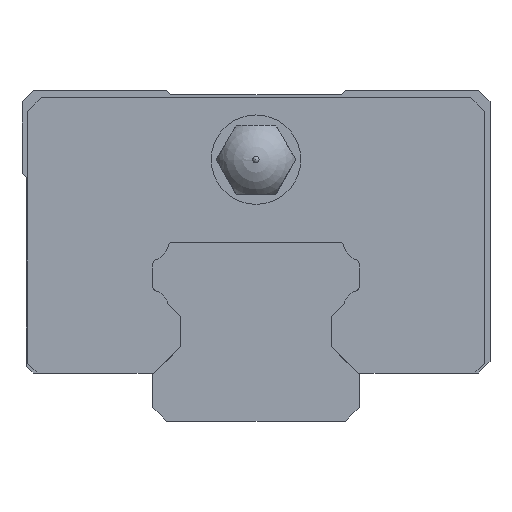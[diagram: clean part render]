
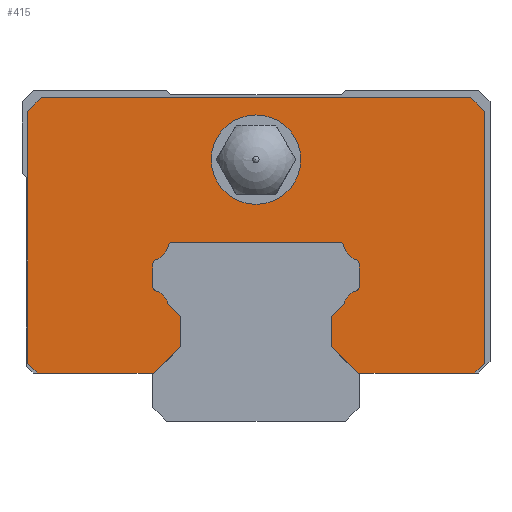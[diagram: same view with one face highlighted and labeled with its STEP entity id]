
A CAD part, front view. The second image highlights one B-rep face of the part: STEP entity #415.
In plain terms, the highlighted planar face has unit normal (0, -1, 0).
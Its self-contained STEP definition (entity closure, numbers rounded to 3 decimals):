
#164=FACE_BOUND('',#725,.T.);
#165=FACE_BOUND('',#726,.T.);
#287=CIRCLE('',#2353,0.3);
#289=CIRCLE('',#2356,1.4);
#291=CIRCLE('',#2363,1.4);
#293=CIRCLE('',#2366,0.3);
#295=CIRCLE('',#2370,0.3);
#297=CIRCLE('',#2373,1.4);
#299=CIRCLE('',#2376,0.3);
#301=CIRCLE('',#2380,0.3);
#303=CIRCLE('',#2383,1.4);
#305=CIRCLE('',#2386,0.3);
#309=CIRCLE('',#2400,3.25);
#415=ADVANCED_FACE('',(#164,#165),#514,.T.);
#514=PLANE('',#2402);
#725=EDGE_LOOP('',(#1184,#1185,#1186,#1187,#1188,#1189,#1190,#1191,#1192,#1193,#1194,#1195,#1196,#1197,#1198,#1199,#1200,#1201,#1202,#1203,#1204,#1205,#1206,#1207,#1208,#1209,#1210,#1211));
#726=EDGE_LOOP('',(#1212));
#1184=ORIENTED_EDGE('',*,*,#1791,.F.);
#1185=ORIENTED_EDGE('',*,*,#1753,.F.);
#1186=ORIENTED_EDGE('',*,*,#1750,.F.);
#1187=ORIENTED_EDGE('',*,*,#1747,.F.);
#1188=ORIENTED_EDGE('',*,*,#1744,.F.);
#1189=ORIENTED_EDGE('',*,*,#1741,.F.);
#1190=ORIENTED_EDGE('',*,*,#1789,.F.);
#1191=ORIENTED_EDGE('',*,*,#1787,.F.);
#1192=ORIENTED_EDGE('',*,*,#1784,.F.);
#1193=ORIENTED_EDGE('',*,*,#1781,.F.);
#1194=ORIENTED_EDGE('',*,*,#1778,.F.);
#1195=ORIENTED_EDGE('',*,*,#1775,.F.);
#1196=ORIENTED_EDGE('',*,*,#1772,.F.);
#1197=ORIENTED_EDGE('',*,*,#1769,.F.);
#1198=ORIENTED_EDGE('',*,*,#1766,.F.);
#1199=ORIENTED_EDGE('',*,*,#1763,.F.);
#1200=ORIENTED_EDGE('',*,*,#1760,.F.);
#1201=ORIENTED_EDGE('',*,*,#1757,.F.);
#1202=ORIENTED_EDGE('',*,*,#1793,.F.);
#1203=ORIENTED_EDGE('',*,*,#1732,.T.);
#1204=ORIENTED_EDGE('',*,*,#1795,.T.);
#1205=ORIENTED_EDGE('',*,*,#1798,.T.);
#1206=ORIENTED_EDGE('',*,*,#1800,.T.);
#1207=ORIENTED_EDGE('',*,*,#1802,.T.);
#1208=ORIENTED_EDGE('',*,*,#1804,.T.);
#1209=ORIENTED_EDGE('',*,*,#1807,.T.);
#1210=ORIENTED_EDGE('',*,*,#1808,.T.);
#1211=ORIENTED_EDGE('',*,*,#1713,.T.);
#1212=ORIENTED_EDGE('',*,*,#1810,.F.);
#1478=VERTEX_POINT('',#3365);
#1479=VERTEX_POINT('',#3367);
#1484=VERTEX_POINT('',#3404);
#1485=VERTEX_POINT('',#3406);
#1489=VERTEX_POINT('',#3420);
#1491=VERTEX_POINT('',#3424);
#1493=VERTEX_POINT('',#3429);
#1495=VERTEX_POINT('',#3435);
#1497=VERTEX_POINT('',#3441);
#1499=VERTEX_POINT('',#3447);
#1501=VERTEX_POINT('',#3453);
#1503=VERTEX_POINT('',#3457);
#1505=VERTEX_POINT('',#3462);
#1507=VERTEX_POINT('',#3468);
#1509=VERTEX_POINT('',#3474);
#1511=VERTEX_POINT('',#3480);
#1513=VERTEX_POINT('',#3486);
#1515=VERTEX_POINT('',#3492);
#1517=VERTEX_POINT('',#3498);
#1519=VERTEX_POINT('',#3504);
#1521=VERTEX_POINT('',#3510);
#1523=VERTEX_POINT('',#3516);
#1524=VERTEX_POINT('',#3530);
#1526=VERTEX_POINT('',#3536);
#1527=VERTEX_POINT('',#3540);
#1528=VERTEX_POINT('',#3544);
#1529=VERTEX_POINT('',#3548);
#1531=VERTEX_POINT('',#3554);
#1533=VERTEX_POINT('',#3562);
#1713=EDGE_CURVE('',#1479,#1478,#1971,.T.);
#1732=EDGE_CURVE('',#1485,#1484,#1985,.T.);
#1741=EDGE_CURVE('',#1491,#1489,#1994,.T.);
#1744=EDGE_CURVE('',#1489,#1493,#287,.T.);
#1747=EDGE_CURVE('',#1493,#1495,#289,.T.);
#1750=EDGE_CURVE('',#1495,#1497,#1999,.T.);
#1753=EDGE_CURVE('',#1497,#1499,#2002,.T.);
#1757=EDGE_CURVE('',#1503,#1501,#2006,.T.);
#1760=EDGE_CURVE('',#1501,#1505,#2009,.T.);
#1763=EDGE_CURVE('',#1505,#1507,#291,.T.);
#1766=EDGE_CURVE('',#1507,#1509,#293,.T.);
#1769=EDGE_CURVE('',#1509,#1511,#2014,.T.);
#1772=EDGE_CURVE('',#1511,#1513,#295,.T.);
#1775=EDGE_CURVE('',#1513,#1515,#297,.T.);
#1778=EDGE_CURVE('',#1515,#1517,#299,.T.);
#1781=EDGE_CURVE('',#1517,#1519,#2020,.T.);
#1784=EDGE_CURVE('',#1519,#1521,#301,.T.);
#1787=EDGE_CURVE('',#1521,#1523,#303,.T.);
#1789=EDGE_CURVE('',#1523,#1491,#305,.T.);
#1791=EDGE_CURVE('',#1499,#1478,#2024,.T.);
#1793=EDGE_CURVE('',#1485,#1503,#2026,.T.);
#1795=EDGE_CURVE('',#1484,#1524,#2028,.T.);
#1798=EDGE_CURVE('',#1524,#1526,#2030,.T.);
#1800=EDGE_CURVE('',#1526,#1527,#2032,.T.);
#1802=EDGE_CURVE('',#1527,#1528,#2034,.T.);
#1804=EDGE_CURVE('',#1528,#1529,#2036,.T.);
#1807=EDGE_CURVE('',#1529,#1531,#2038,.T.);
#1808=EDGE_CURVE('',#1531,#1479,#2039,.T.);
#1810=EDGE_CURVE('',#1533,#1533,#309,.T.);
#1971=LINE('',#3366,#2166);
#1985=LINE('',#3405,#2180);
#1994=LINE('',#3425,#2189);
#1999=LINE('',#3443,#2194);
#2002=LINE('',#3449,#2197);
#2006=LINE('',#3458,#2201);
#2009=LINE('',#3464,#2204);
#2014=LINE('',#3482,#2209);
#2020=LINE('',#3506,#2215);
#2024=LINE('',#3524,#2219);
#2026=LINE('',#3527,#2221);
#2028=LINE('',#3531,#2223);
#2030=LINE('',#3537,#2225);
#2032=LINE('',#3541,#2227);
#2034=LINE('',#3545,#2229);
#2036=LINE('',#3549,#2231);
#2038=LINE('',#3555,#2233);
#2039=LINE('',#3557,#2234);
#2166=VECTOR('',#2712,1.);
#2180=VECTOR('',#2756,1.);
#2189=VECTOR('',#2773,1.);
#2194=VECTOR('',#2792,1.);
#2197=VECTOR('',#2797,1.);
#2201=VECTOR('',#2803,1.);
#2204=VECTOR('',#2808,1.);
#2209=VECTOR('',#2827,1.);
#2215=VECTOR('',#2853,1.);
#2219=VECTOR('',#2877,1.);
#2221=VECTOR('',#2881,1.);
#2223=VECTOR('',#2885,1.);
#2225=VECTOR('',#2891,1.);
#2227=VECTOR('',#2895,1.);
#2229=VECTOR('',#2899,1.);
#2231=VECTOR('',#2903,1.);
#2233=VECTOR('',#2909,1.);
#2234=VECTOR('',#2912,1.);
#2353=AXIS2_PLACEMENT_3D('',#3431,#2779,#2780);
#2356=AXIS2_PLACEMENT_3D('',#3437,#2786,#2787);
#2363=AXIS2_PLACEMENT_3D('',#3470,#2814,#2815);
#2366=AXIS2_PLACEMENT_3D('',#3476,#2821,#2822);
#2370=AXIS2_PLACEMENT_3D('',#3488,#2833,#2834);
#2373=AXIS2_PLACEMENT_3D('',#3494,#2840,#2841);
#2376=AXIS2_PLACEMENT_3D('',#3500,#2847,#2848);
#2380=AXIS2_PLACEMENT_3D('',#3512,#2859,#2860);
#2383=AXIS2_PLACEMENT_3D('',#3518,#2866,#2867);
#2386=AXIS2_PLACEMENT_3D('',#3521,#2872,#2873);
#2400=AXIS2_PLACEMENT_3D('',#3561,#2917,#2918);
#2402=AXIS2_PLACEMENT_3D('',#3564,#2921,#2922);
#2712=DIRECTION('',(1.,0.,0.));
#2756=DIRECTION('',(1.,0.,0.));
#2773=DIRECTION('',(0.,0.,-1.));
#2779=DIRECTION('',(0.,-1.,0.));
#2780=DIRECTION('',(0.,0.,-1.));
#2786=DIRECTION('',(0.,1.,0.));
#2787=DIRECTION('',(0.,0.,-1.));
#2792=DIRECTION('',(0.707,0.,-0.707));
#2797=DIRECTION('',(0.,0.,-1.));
#2803=DIRECTION('',(0.,0.,1.));
#2808=DIRECTION('',(0.707,0.,0.707));
#2814=DIRECTION('',(0.,1.,0.));
#2815=DIRECTION('',(0.,0.,-1.));
#2821=DIRECTION('',(0.,-1.,0.));
#2822=DIRECTION('',(0.,0.,-1.));
#2827=DIRECTION('',(0.,0.,1.));
#2833=DIRECTION('',(0.,-1.,0.));
#2834=DIRECTION('',(0.,0.,-1.));
#2840=DIRECTION('',(0.,1.,0.));
#2841=DIRECTION('',(0.,0.,-1.));
#2847=DIRECTION('',(0.,-1.,0.));
#2848=DIRECTION('',(0.,0.,-1.));
#2853=DIRECTION('',(-1.,0.,0.));
#2859=DIRECTION('',(0.,-1.,0.));
#2860=DIRECTION('',(0.,0.,-1.));
#2866=DIRECTION('',(0.,1.,0.));
#2867=DIRECTION('',(0.,0.,-1.));
#2872=DIRECTION('',(0.,-1.,0.));
#2873=DIRECTION('',(0.,0.,-1.));
#2877=DIRECTION('',(-0.707,0.,-0.707));
#2881=DIRECTION('',(-0.707,0.,0.707));
#2885=DIRECTION('',(0.707,0.,0.707));
#2891=DIRECTION('',(0.,0.,1.));
#2895=DIRECTION('',(-0.707,0.,0.707));
#2899=DIRECTION('',(-1.,0.,0.));
#2903=DIRECTION('',(-0.707,0.,-0.707));
#2909=DIRECTION('',(0.,0.,-1.));
#2912=DIRECTION('',(0.707,0.,-0.707));
#2917=DIRECTION('',(0.,-1.,0.));
#2918=DIRECTION('',(1.,0.,0.));
#2921=DIRECTION('',(0.,-1.,0.));
#2922=DIRECTION('',(0.,0.,-1.));
#3365=CARTESIAN_POINT('',(-7.4,0.,3.5));
#3366=CARTESIAN_POINT('',(-15.9,0.,3.5));
#3367=CARTESIAN_POINT('',(-15.9,0.,3.5));
#3404=CARTESIAN_POINT('',(15.9,0.,3.5));
#3405=CARTESIAN_POINT('',(-15.9,0.,3.5));
#3406=CARTESIAN_POINT('',(7.4,0.,3.5));
#3420=CARTESIAN_POINT('',(-7.5,0.,9.772));
#3424=CARTESIAN_POINT('',(-7.5,0.,11.428));
#3425=CARTESIAN_POINT('',(-7.5,0.,19.));
#3429=CARTESIAN_POINT('',(-7.295,0.,9.488));
#3431=CARTESIAN_POINT('',(-7.2,0.,9.772));
#3435=CARTESIAN_POINT('',(-6.376,0.,8.476));
#3437=CARTESIAN_POINT('',(-7.74,0.,8.16));
#3441=CARTESIAN_POINT('',(-5.5,0.,7.6));
#3443=CARTESIAN_POINT('',(-8.45,0.,10.55));
#3447=CARTESIAN_POINT('',(-5.5,0.,5.4));
#3449=CARTESIAN_POINT('',(-5.5,0.,19.));
#3453=CARTESIAN_POINT('',(5.5,0.,7.6));
#3457=CARTESIAN_POINT('',(5.5,0.,5.4));
#3458=CARTESIAN_POINT('',(5.5,0.,19.));
#3462=CARTESIAN_POINT('',(6.376,0.,8.476));
#3464=CARTESIAN_POINT('',(8.45,0.,10.55));
#3468=CARTESIAN_POINT('',(7.295,0.,9.488));
#3470=CARTESIAN_POINT('',(7.74,0.,8.16));
#3474=CARTESIAN_POINT('',(7.5,0.,9.772));
#3476=CARTESIAN_POINT('',(7.2,0.,9.772));
#3480=CARTESIAN_POINT('',(7.5,0.,11.428));
#3482=CARTESIAN_POINT('',(7.5,0.,19.));
#3486=CARTESIAN_POINT('',(7.295,0.,11.712));
#3488=CARTESIAN_POINT('',(7.2,0.,11.428));
#3492=CARTESIAN_POINT('',(6.368,0.,12.76));
#3494=CARTESIAN_POINT('',(7.74,0.,13.04));
#3498=CARTESIAN_POINT('',(6.074,0.,13.));
#3500=CARTESIAN_POINT('',(6.074,0.,12.7));
#3504=CARTESIAN_POINT('',(-6.074,0.,13.));
#3506=CARTESIAN_POINT('',(0.,0.,13.));
#3510=CARTESIAN_POINT('',(-6.368,0.,12.76));
#3512=CARTESIAN_POINT('',(-6.074,0.,12.7));
#3516=CARTESIAN_POINT('',(-7.295,0.,11.712));
#3518=CARTESIAN_POINT('',(-7.74,0.,13.04));
#3521=CARTESIAN_POINT('',(-7.2,0.,11.428));
#3524=CARTESIAN_POINT('',(4.05,0.,14.95));
#3527=CARTESIAN_POINT('',(-4.05,0.,14.95));
#3530=CARTESIAN_POINT('',(16.6,0.,4.2));
#3531=CARTESIAN_POINT('',(15.9,0.,3.5));
#3536=CARTESIAN_POINT('',(16.6,0.,22.5));
#3537=CARTESIAN_POINT('',(16.6,0.,4.2));
#3540=CARTESIAN_POINT('',(15.6,0.,23.5));
#3541=CARTESIAN_POINT('',(16.6,0.,22.5));
#3544=CARTESIAN_POINT('',(-15.6,0.,23.5));
#3545=CARTESIAN_POINT('',(15.6,0.,23.5));
#3548=CARTESIAN_POINT('',(-16.6,0.,22.5));
#3549=CARTESIAN_POINT('',(-15.6,0.,23.5));
#3554=CARTESIAN_POINT('',(-16.6,0.,4.2));
#3555=CARTESIAN_POINT('',(-16.6,0.,22.5));
#3557=CARTESIAN_POINT('',(-16.6,0.,4.2));
#3561=CARTESIAN_POINT('',(0.,0.,19.));
#3562=CARTESIAN_POINT('',(3.25,0.,19.));
#3564=CARTESIAN_POINT('',(0.,0.,19.));
